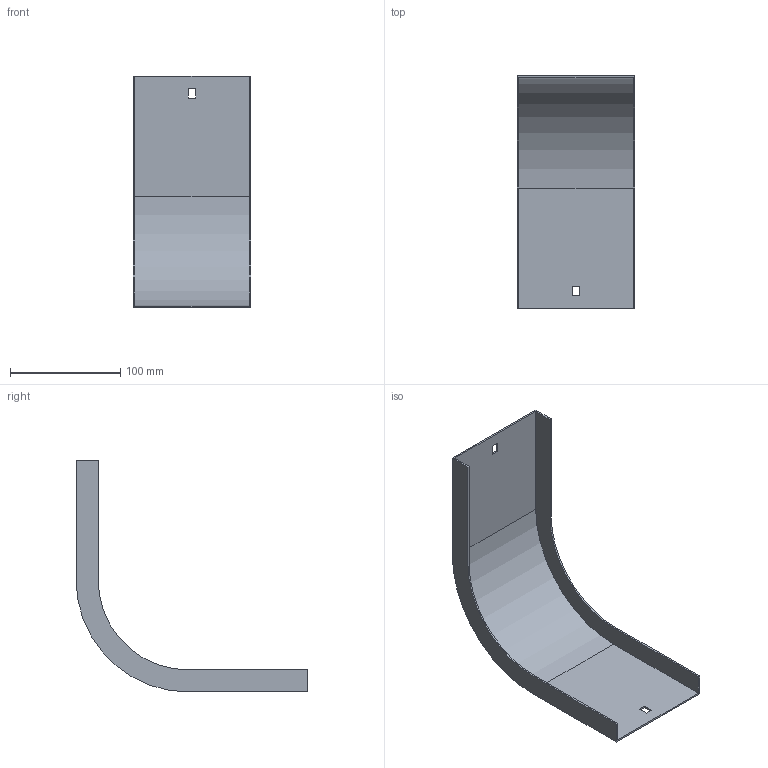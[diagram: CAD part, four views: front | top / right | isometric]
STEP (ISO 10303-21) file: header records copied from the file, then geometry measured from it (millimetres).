
FILE_DESCRIPTION (( 'STEP AP214' ), '1' );
FILE_NAME ('33G1C100.step', '2025-02-21T12:44:43', ( '' ), ( '' ), 'SwSTEP 2.0', 'SolidWorks 2023', '' );
FILE_SCHEMA (( 'AUTOMOTIVE_DESIGN' ));
Length unit declared in the file: millimetre
Products named in the file (1): 33G1C100
Bounding box: 107 x 210.5 x 210.5 mm (x, y, z)
Volume: 80224.4 mm3; surface area: 108532.4 mm2
Topology: 1 solids, 1 shells, 26 faces, 72 edges, 48 vertices
Faces by surface type: plane 22, cylinder 4
Entity records: 855 total; most frequent: CARTESIAN_POINT 147, ORIENTED_EDGE 144, DIRECTION 134, EDGE_CURVE 72, LINE 64, VECTOR 64, VERTEX_POINT 48, AXIS2_PLACEMENT_3D 35
